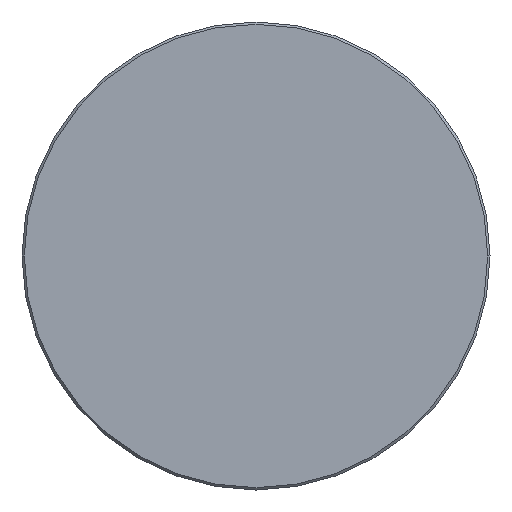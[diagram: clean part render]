
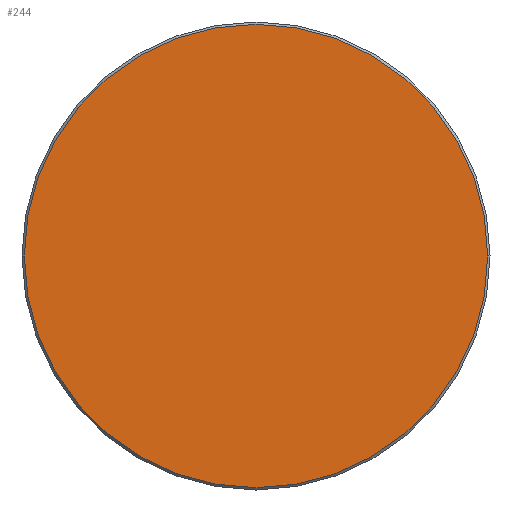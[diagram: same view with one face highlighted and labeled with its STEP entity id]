
A CAD part, left-side view. The second image highlights one B-rep face of the part: STEP entity #244.
In plain terms, the highlighted planar face has unit normal (-1, 0, 0).
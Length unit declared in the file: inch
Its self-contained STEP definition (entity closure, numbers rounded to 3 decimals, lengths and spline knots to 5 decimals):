
#19 = AXIS2_PLACEMENT_3D ( 'NONE', #88, #91, #173 ) ;
#21 = EDGE_LOOP ( 'NONE', ( #262, #370 ) ) ;
#57 = CARTESIAN_POINT ( 'NONE',  ( 0., 0., 0. ) ) ;
#65 = DIRECTION ( 'NONE',  ( 0., -1., 0. ) ) ;
#84 = FACE_OUTER_BOUND ( 'NONE', #21, .T. ) ;
#88 = CARTESIAN_POINT ( 'NONE',  ( 0., 0., 0. ) ) ;
#91 = DIRECTION ( 'NONE',  ( -1., 0., 0. ) ) ;
#130 = EDGE_CURVE ( 'NONE', #247, #176, #270, .T. ) ;
#134 = CARTESIAN_POINT ( 'NONE',  ( 0., -0.40225, 0. ) ) ;
#173 = DIRECTION ( 'NONE',  ( 0., -1., 0. ) ) ;
#176 = VERTEX_POINT ( 'NONE', #134 ) ;
#195 = DIRECTION ( 'NONE',  ( 0., -1., 0. ) ) ;
#205 = CARTESIAN_POINT ( 'NONE',  ( 0., 0., 0. ) ) ;
#206 = AXIS2_PLACEMENT_3D ( 'NONE', #205, #259, #65 ) ;
#244 = ADVANCED_FACE ( 'NONE', ( #84 ), #293, .T. ) ;
#247 = VERTEX_POINT ( 'NONE', #294 ) ;
#254 = DIRECTION ( 'NONE',  ( -1., 0., 0. ) ) ;
#259 = DIRECTION ( 'NONE',  ( -1., 0., 0. ) ) ;
#262 = ORIENTED_EDGE ( 'NONE', *, *, #130, .T. ) ;
#270 = CIRCLE ( 'NONE', #274, 0.40225 ) ;
#274 = AXIS2_PLACEMENT_3D ( 'NONE', #57, #254, #195 ) ;
#279 = CIRCLE ( 'NONE', #206, 0.40225 ) ;
#293 = PLANE ( 'NONE',  #19 ) ;
#294 = CARTESIAN_POINT ( 'NONE',  ( 0., 0.40225, 0. ) ) ;
#365 = EDGE_CURVE ( 'NONE', #176, #247, #279, .T. ) ;
#370 = ORIENTED_EDGE ( 'NONE', *, *, #365, .T. ) ;
